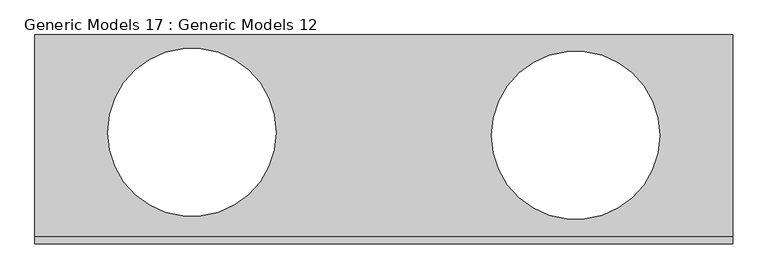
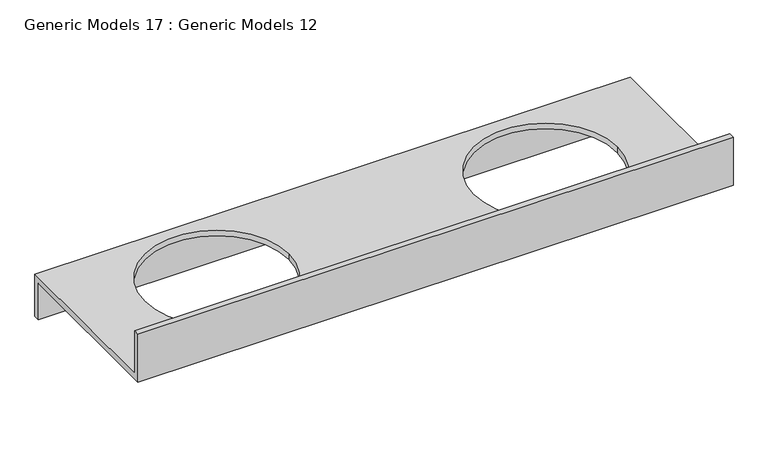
"""IFC4 building model written with IfcOpenShell, lengths in millimetres: proxy geometry, Generic Models 17 : Generic Models 12."""

from ifc_helpers import new_model, si_unit, frame, origin, place, context, project, spatial, polyline, circle_curve, source, transform, mapped, element, save
from ifc_brep_helpers import plane_surface, revolved_surface, advanced_brep


def generic_models_17_generic_models_12_ee042976(model_context):
    return source(origin(), model_context, "Body", "AdvancedBrep", [
        advanced_brep(
        [(-6927.2739616, -20064.5871375, 900.0), (-6927.2739616, -20064.5871375, 750.0), (-6927.2739616, -20084.5871375, 750.0), (-6927.2739616, -20084.5871375, 880.0), (-6927.2739616, -20664.5871375, 880.0), (-6927.2739616, -20664.5871375, 1050.0), (-6927.2739616, -20644.5871375, 1050.0), (-6927.2739616, -20644.5871375, 900.0), (-4927.2739616, -20644.5871375, 900.0), (-4927.2739616, -20064.5871375, 900.0), (-5618.5707161, -20352.8084365, 900.0), (-5135.9707161, -20352.8084365, 900.0), (-6718.5739542, -20344.1196021, 900.0), (-6235.9739542, -20344.1196021, 900.0), (-4927.2739616, -20644.5871375, 1050.0), (-4927.2739616, -20664.5871375, 1050.0), (-4927.2739616, -20664.5871375, 880.0), (-4927.2739616, -20084.5871375, 880.0), (-5135.9707161, -20352.8084365, 880.0), (-5618.5707161, -20352.8084365, 880.0), (-6235.9739542, -20344.1196021, 880.0), (-6718.5739542, -20344.1196021, 880.0), (-4927.2739616, -20084.5871375, 750.0), (-4927.2739616, -20064.5871375, 750.0)],
        [
            (0, 1),
            (1, 2),
            (2, 3),
            (3, 4),
            (4, 5),
            (5, 6),
            (6, 7),
            (7, 0),
            (7, 8),
            (8, 9),
            (9, 0),
            (10, 11, circle_curve(frame((-5377.2707161, -20352.8084365, 900.0), z_axis=(0.0, 0.0, -1.0), x_axis=(0.0, 1.0, 0.0)), 241.3)),
            (11, 10, circle_curve(frame((-5377.2707161, -20352.8084365, 900.0), z_axis=(0.0, 0.0, -1.0), x_axis=(0.0, 1.0, 0.0)), 241.3)),
            (12, 13, circle_curve(frame((-6477.2739542, -20344.1196021, 900.0), z_axis=(0.0, 0.0, -1.0), x_axis=(0.0, 1.0, 0.0)), 241.3)),
            (13, 12, circle_curve(frame((-6477.2739542, -20344.1196021, 900.0), z_axis=(0.0, 0.0, -1.0), x_axis=(0.0, 1.0, 0.0)), 241.3)),
            (6, 14),
            (14, 8),
            (5, 15),
            (15, 14),
            (4, 16),
            (16, 15),
            (3, 17),
            (17, 16),
            (18, 19, circle_curve(frame((-5377.2707161, -20352.8084365, 880.0), z_axis=(0.0, 0.0, 1.0), x_axis=(0.0, 1.0, 0.0)), 241.3)),
            (19, 18, circle_curve(frame((-5377.2707161, -20352.8084365, 880.0), z_axis=(0.0, 0.0, 1.0), x_axis=(0.0, 1.0, 0.0)), 241.3)),
            (20, 21, circle_curve(frame((-6477.2739542, -20344.1196021, 880.0), z_axis=(0.0, 0.0, 1.0), x_axis=(0.0, 1.0, 0.0)), 241.3)),
            (21, 20, circle_curve(frame((-6477.2739542, -20344.1196021, 880.0), z_axis=(0.0, 0.0, 1.0), x_axis=(0.0, 1.0, 0.0)), 241.3)),
            (2, 22),
            (22, 17),
            (1, 23),
            (23, 22),
            (9, 23),
            (10, 19),
            (18, 11),
            (12, 21),
            (20, 13),
        ],
        [
            plane_surface(frame((-6927.2739616, -20664.5871375, 900.0), z_axis=(-1.0, 0.0, 0.0), x_axis=(0.0, 0.0, 1.0))),
            plane_surface(frame((-6927.2739616, -20644.5871375, 900.0), z_axis=(0.0, 0.0, 1.0), x_axis=(1.0, 0.0, 0.0))),
            plane_surface(frame((-6927.2739616, -20644.5871375, 1050.0), z_axis=(0.0, 1.0, 0.0), x_axis=(1.0, 0.0, 0.0))),
            plane_surface(frame((-6927.2739616, -20664.5871375, 1050.0), z_axis=(0.0, 0.0, 1.0), x_axis=(1.0, 0.0, 0.0))),
            plane_surface(frame((-6927.2739616, -20664.5871375, 880.0), z_axis=(0.0, -1.0, 0.0), x_axis=(1.0, 0.0, 0.0))),
            plane_surface(frame((-6927.2739616, -20084.5871375, 880.0), z_axis=(0.0, 0.0, -1.0), x_axis=(1.0, 0.0, 0.0))),
            plane_surface(frame((-6927.2739616, -20084.5871375, 750.0), z_axis=(0.0, -1.0, 0.0), x_axis=(1.0, 0.0, 0.0))),
            plane_surface(frame((-6927.2739616, -20064.5871375, 750.0), z_axis=(0.0, 0.0, -1.0), x_axis=(1.0, 0.0, 0.0))),
            plane_surface(frame((-6927.2739616, -20064.5871375, 900.0), z_axis=(0.0, 1.0, 0.0), x_axis=(1.0, 0.0, 0.0))),
            plane_surface(frame((-4927.2739616, -20664.5871375, 900.0), z_axis=(1.0, 0.0, 0.0), x_axis=(0.0, 0.0, 1.0))),
            revolved_surface(polyline([(-5377.2707161, -20111.5084365, 880.0), (-5377.2707161, -20111.5084365, 900.0)]), (-5377.2707161, -20352.8084365, 900.0), (0.0, 0.0, -1.0)),
            revolved_surface(polyline([(-6477.2739542, -20102.8196021, 880.0), (-6477.2739542, -20102.8196021, 900.0)]), (-6477.2739542, -20344.1196021, 900.0), (0.0, 0.0, -1.0)),
        ],
        [
            (0, [[1, 2, 3, 4, 5, 6, 7, 8]]),
            (1, [[-8, 9, 10, 11], [12, 13], [14, 15]]),
            (2, [[-7, 16, 17, -9]]),
            (3, [[-6, 18, 19, -16]]),
            (4, [[-5, 20, 21, -18]]),
            (5, [[-4, 22, 23, -20], [24, 25], [26, 27]]),
            (6, [[-3, 28, 29, -22]]),
            (7, [[-2, 30, 31, -28]]),
            (8, [[-1, -11, 32, -30]]),
            (9, [[-10, -17, -19, -21, -23, -29, -31, -32]]),
            (10, [[33, -24, 34, -12]]),
            (10, [[-33, -13, -34, -25]]),
            (11, [[35, -26, 36, -14]]),
            (11, [[-35, -15, -36, -27]]),
        ],
    ),
    ])


if __name__ == "__main__":
    model = new_model("IFC4")
    model_context = context("Model", 3, world=origin())
    ifc_project = project(units=[si_unit("LENGTHUNIT", "METRE", prefix="MILLI")], contexts=[model_context])
    site = spatial("IfcSite", under=ifc_project)
    building = spatial("IfcBuilding", under=site)
    placement = place(None, origin())
    generic_models_17_generic_models_12_shape = generic_models_17_generic_models_12_ee042976(model_context)
    element("IfcBuildingElementProxy", 1, Name="Generic Models 17 : Generic Models 12", ObjectType="Generic Models 17 : Generic Models 12", at=placement, inside=building, context=model_context, shape_type="MappedRepresentation", body=[
        mapped(generic_models_17_generic_models_12_shape, transform((0.0, 0.0, 0.0), x_axis=(1.0, 0.0, 0.0), y_axis=(0.0, 1.0, 0.0), z_axis=(0.0, 0.0, 1.0))),
    ])
    save(model, "model.ifc")
